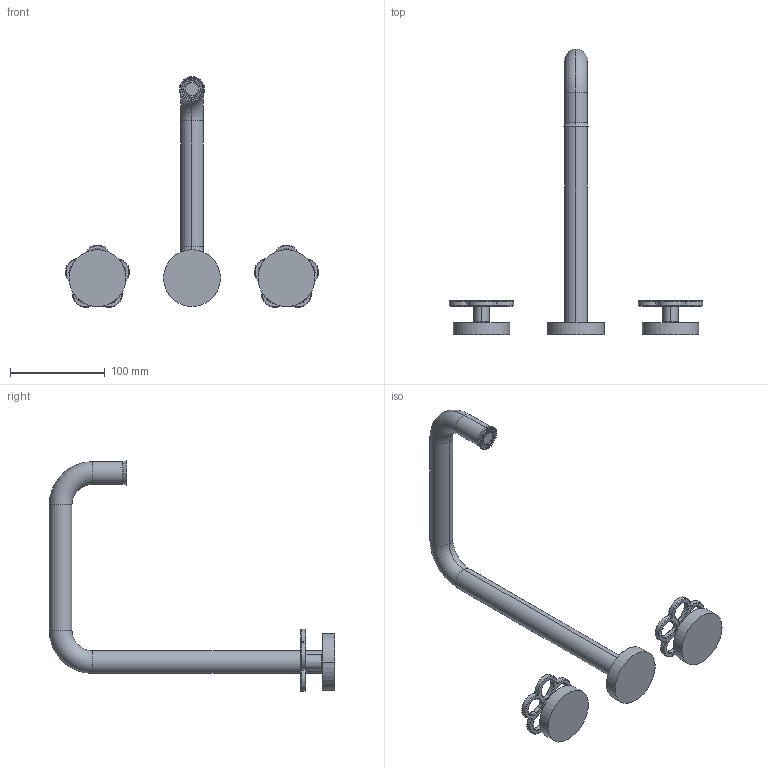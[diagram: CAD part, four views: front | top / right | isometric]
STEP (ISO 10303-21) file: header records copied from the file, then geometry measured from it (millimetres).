
FILE_DESCRIPTION((''),'2;1');
FILE_NAME('20930T407W000000_SW0002','2023-01-31T16:34:57',('matteo.follador'),(''),'CREO PARAMETRIC BY PTC INC, 2020281','CREO PARAMETRIC BY PTC INC, 2020281','');
FILE_SCHEMA(('AUTOMOTIVE_DESIGN { 1 0 10303 214 1 1 1 1 }'));
Length unit declared in the file: millimetre
Products named in the file (1): 20930T407W000000_SW0002
Bounding box: 267.92 x 302 x 244.25 mm (x, y, z)
Volume: 221360.1 mm3; surface area: 112454.3 mm2
Topology: 4 solids, 9 shells, 484 faces, 1100 edges, 641 vertices
Faces by surface type: cylinder 174, plane 134, torus 104, cone 68, bspline 4
Entity records: 18239 total; most frequent: CARTESIAN_POINT 3792, DIRECTION 2654, ORIENTED_EDGE 2188, AXIS2_PLACEMENT_3D 1116, EDGE_CURVE 1094, VERTEX_POINT 641, CIRCLE 626, EDGE_LOOP 523
